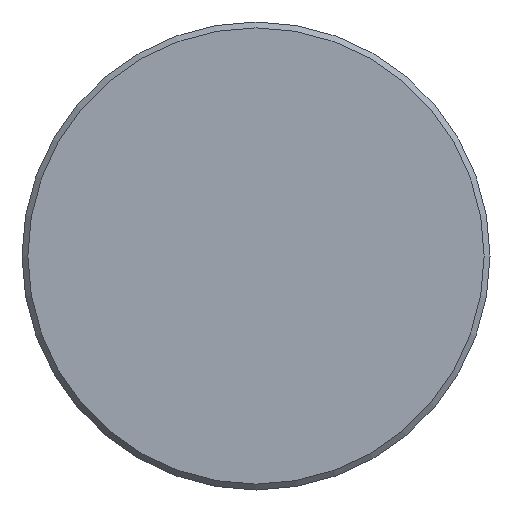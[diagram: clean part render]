
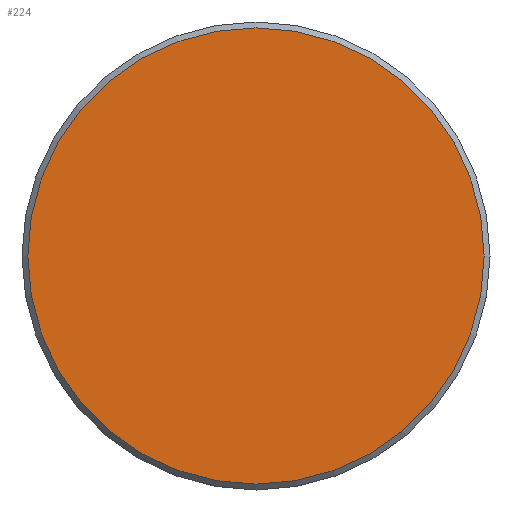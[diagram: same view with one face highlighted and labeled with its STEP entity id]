
A CAD part, front view. The second image highlights one B-rep face of the part: STEP entity #224.
In plain terms, the highlighted planar face has unit normal (0, -1, 0).
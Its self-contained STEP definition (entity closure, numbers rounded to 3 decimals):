
#224 = ADVANCED_FACE( '', ( #432 ), #433, .F. );
#432 = FACE_OUTER_BOUND( '', #628, .T. );
#433 = PLANE( '', #629 );
#628 = EDGE_LOOP( '', ( #997 ) );
#629 = AXIS2_PLACEMENT_3D( '', #998, #999, #1000 );
#997 = ORIENTED_EDGE( '', *, *, #1208, .T. );
#998 = CARTESIAN_POINT( '', ( 19.5, 0., 0. ) );
#999 = DIRECTION( '', ( 0., 1., 0. ) );
#1000 = DIRECTION( '', ( 0., 0., 1. ) );
#1208 = EDGE_CURVE( '', #1421, #1421, #1422, .T. );
#1421 = VERTEX_POINT( '', #1874 );
#1422 = CIRCLE( '', #1875, 19.5 );
#1874 = CARTESIAN_POINT( '', ( 0., 0., -19.5 ) );
#1875 = AXIS2_PLACEMENT_3D( '', #2075, #2076, #2077 );
#2075 = CARTESIAN_POINT( '', ( 0., 0., 0. ) );
#2076 = DIRECTION( '', ( 0., -1., 0. ) );
#2077 = DIRECTION( '', ( 0., 0., -1. ) );
